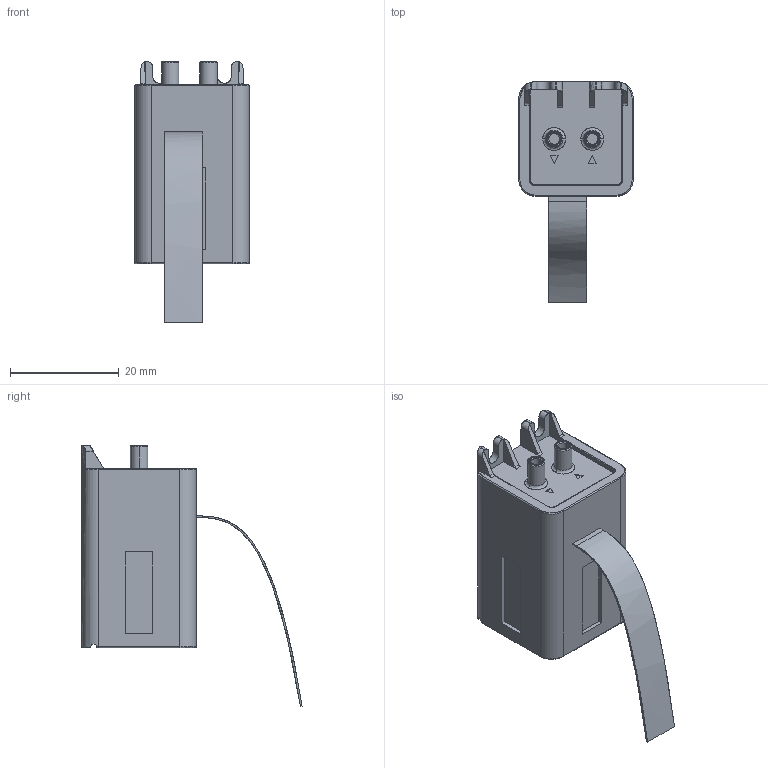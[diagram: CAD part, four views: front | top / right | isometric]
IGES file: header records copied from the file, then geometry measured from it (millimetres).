
Start section: SolidWorks IGES file using analytic representation for surfaces
Global section: file name: \\XSERVER\Xavitech Data\Produktion\Standardprodukter\Mekanik\Assembly\V200\Pump dummies for web\V200-Black edition-Flex-v1.IGS; native system: SolidWorks 2014; preprocessor: SolidWorks 2014; author: JGP01; date: 150422.162819; units: millimetre
Bounding box: 21 x 40.42 x 47.86 mm (x, y, z)
Surface area: 4596.3 mm2 (no closed solid volume)
Topology: 0 solids, 0 shells, 141 faces, 1304 edges, 1298 vertices
Faces by surface type: bspline 99, revolution 42
